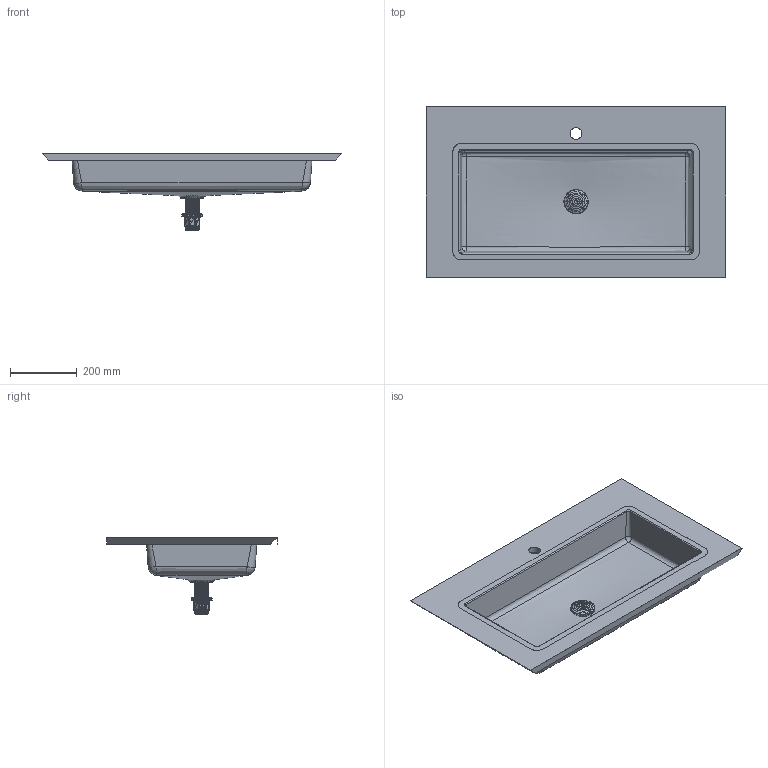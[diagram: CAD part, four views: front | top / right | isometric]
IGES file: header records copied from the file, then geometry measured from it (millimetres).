
Start section: Data from Parasolid IGES Translator 19.0.9, Copyright(c) 2006 Siemens PL M Software. All Rights Reserved.
Global section: file name: noorth-top-H 1,9 D 51,3 W 90_6536.igs; native system: By Siemens PLM Incorporated; preprocessor: XPlus GENERIC/IGES 19.0.9; author: Noname; organization: Noname; date: 20200603.085054; units: metre
Bounding box: 900 x 512 x 230.13 mm (x, y, z)
Volume: 8682851.8 mm3; surface area: 1456056.8 mm2
Topology: 2 solids, 2 shells, 11707 faces, 35065 edges, 34977 vertices
Faces by surface type: extrusion 11618, bspline 48, plane 32, cylinder 6, cone 3
Full cylindrical faces by diameter (mm): 34.9 x1, 45 x1
